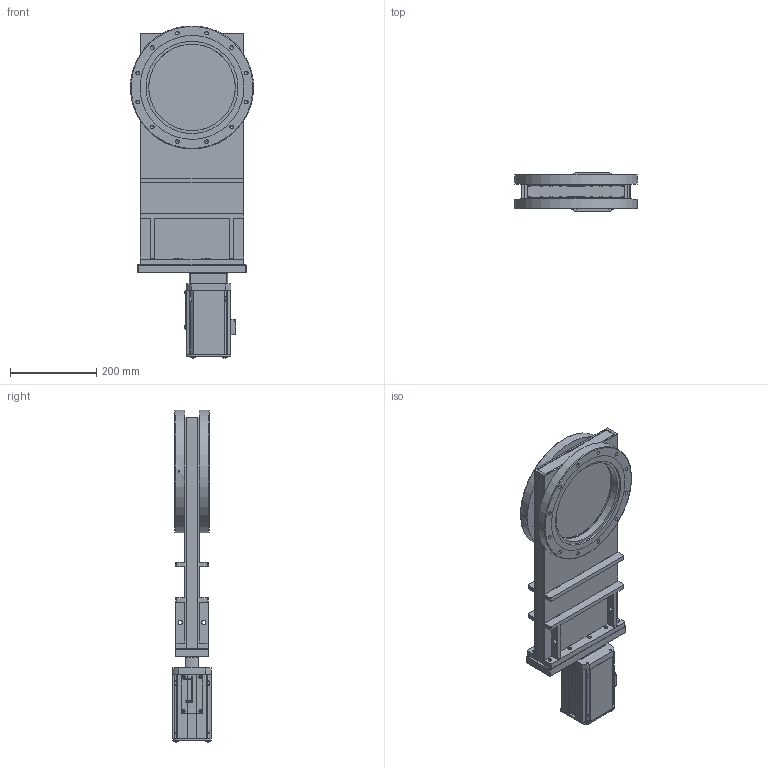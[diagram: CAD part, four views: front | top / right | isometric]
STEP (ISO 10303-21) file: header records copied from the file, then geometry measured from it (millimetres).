
FILE_DESCRIPTION(/* description */ (''),/* implementation_level */ '2;1');
FILE_NAME(/* name */ '1159763731_203.stp',/* time_stamp */ '2017-07-11T14:57:43+02:00',/* author */ (''),/* organization */ (''),/* preprocessor_version */ 'ST-DEVELOPER v15',/* originating_system */ 'SIEMENS PLM Software NX 9.0',/* authorisation */ '');
FILE_SCHEMA (('AP203_CONFIGURATION_CONTROLLED_3D_DESIGN_OF_MECHANICAL_PARTS_AND_ASSEMBLIES_MIM_LF { 1 0 10303 403 2 1 2}'));
Length unit declared in the file: millimetre
Products named in the file (44): n-6197-034.1; n-7100-007.2; 395614; 94220-01.1; 94224-01.2; 834044_28453ID; 834044_28472ID; 834044_28471ID; 834044_28470ID; 834046_28469ID; 834046_28468ID; 834046_28467ID; 834046_28466ID; 834014_28464ID; 834014_28463ID; 834006_28461ID; 834001_28459ID; 834001_28458ID; 833986_28456ID; 833986_28455ID; N-6024-538.1; 68057-01.1; n-6024-526; N-7100-014_2.1; 94828-01.1; N-7100-012_3.1; N-6024-571.1; 85949-01.1; 67114-01.1; n-6099-511.1; 23964-01.1_28450ID; 23964-01.1_28449ID; 65313-01.1; 570870; 74628-01.3; 69130-01.2; 778871; 78103-r1.1; 94827-r1.1; 395615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
Assembly tree (64 placements, depth 4):
  899410
    889066
      834047
        833986_28455ID
        833986_28456ID
        834001_28458ID
        834001_28459ID
        834006_28461ID
        834014_28463ID
        834014_28464ID
        834046_28466ID
        834046_28467ID
        834046_28468ID
        834046_28469ID
        834044_28470ID
        834044_28471ID
        834044_28472ID
        834044_28453ID
      23964-01.1_28449ID
      23964-01.1_28450ID
      n-6099-511.1  x2
    94237-r1.2
      67114-01.1  x4
      85949-01.1
      N-6024-571.1  x4
      395615
        94224-01.2
        94220-01.1
        395614
        n-7100-007.2  x2
        n-6197-034.1
    778871  x10
    69130-01.2
    74628-01.3
    570870
    65313-01.1
    94827-r1.1
      N-7100-012_3.1
      94828-01.1
      N-7100-014_2.1
      n-6024-526  x2
    78103-r1.1
      68057-01.1
      N-6024-538.1  x4
Bounding box: 285 x 90 x 767.8 mm (x, y, z)
Volume: 4699730.5 mm3; surface area: 1142629.4 mm2
Topology: 65 solids, 77 shells, 2044 faces, 5259 edges, 3516 vertices
Faces by surface type: plane 1370, cylinder 388, extrusion 137, cone 92, torus 47, sphere 10
Full cylindrical faces by diameter (mm): 0.7 x1, 0.725 x1, 1.5 x6, 2 x2, 2.125 x1, 2.5 x4, 2.65 x1, 3 x6, 3.3 x6, 4 x8, 4.05 x4, 4.2 x2, 4.3 x4, 4.35 x2, 4.4 x4, 4.5 x2, 4.625 x2, 5 x10, 5.4 x2, 5.8 x1, 5.9 x1, 6 x15, 6.6 x4, 6.85 x4, 7.05 x3, 7.982 x4, 8 x6, 8.36 x10, 8.4 x10, 8.45 x2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
Entity records: 61546 total; most frequent: CARTESIAN_POINT 15457, ORIENTED_EDGE 8038, DIRECTION 7242, EDGE_CURVE 4019, VERTEX_POINT 2888, VECTOR 2588, LINE 2451, AXIS2_PLACEMENT_3D 2327
